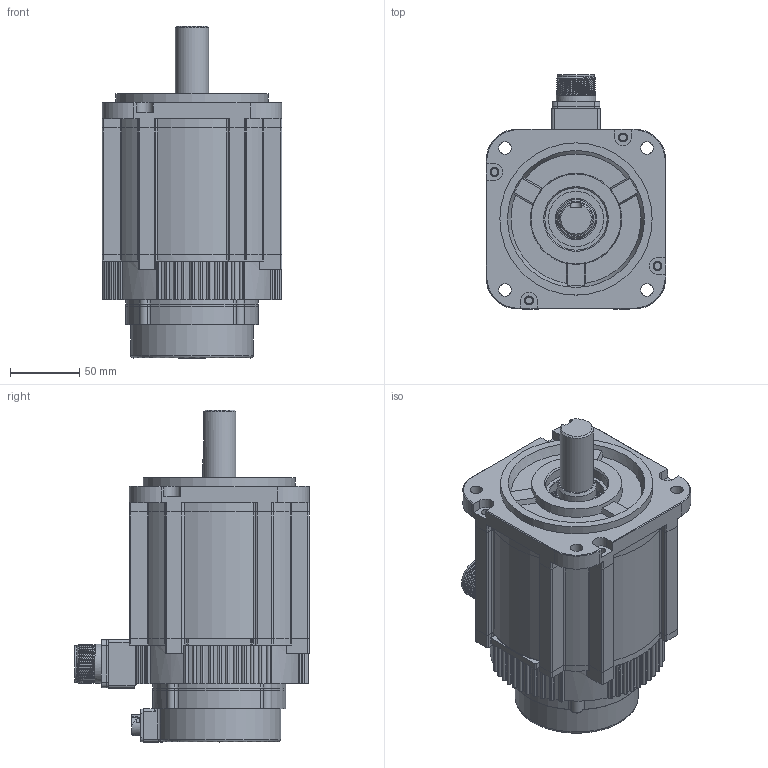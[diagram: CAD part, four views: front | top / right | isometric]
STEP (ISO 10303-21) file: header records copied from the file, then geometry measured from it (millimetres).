
FILE_DESCRIPTION(/* description */ (''),/* implementation_level */ '2;1');
FILE_NAME(/* name */ 'C:\Users\11755\Desktop\騰禾380V\外型圖\SMP系列_馬達外型圖(客戶版)\3D-STP\SMP-H180.stp',/* time_stamp */ '2021-07-26T18:12:20+08:00',/* author */ ('11755'),/* organization */ (''),/* preprocessor_version */ 'ST-DEVELOPER v17',/* originating_system */ 'Autodesk Inventor 2019',/* authorisation */ '');
FILE_SCHEMA (('AUTOMOTIVE_DESIGN { 1 0 10303 214 3 1 1 }'));
Length unit declared in the file: millimetre
Products named in the file (1): SMP-H180
Bounding box: 130 x 169.4 x 239.9 mm (x, y, z)
Surface area: 183628.1 mm2 (no closed solid volume)
Topology: 0 solids, 18 shells, 742 faces, 2303 edges, 1581 vertices
Faces by surface type: cylinder 433, plane 260, torus 22, cone 14, bspline 13
Full cylindrical faces by diameter (mm): 2.05 x2, 3.2 x8, 3.5 x4, 6 x1, 6.5 x8, 9 x4, 11.8 x1, 15.2 x1, 23.5 x1, 24 x1, 26.5 x1, 26.976 x7, 28 x1, 28.5 x8, 29.9 x1, 40 x1, 45 x1, 62 x1, 110 x1, 122 x1
Entity records: 30752 total; most frequent: CARTESIAN_POINT 8933, DIRECTION 4610, ORIENTED_EDGE 4250, EDGE_CURVE 2301, AXIS2_PLACEMENT_3D 1763, VERTEX_POINT 1581, LINE 1084, VECTOR 1084
